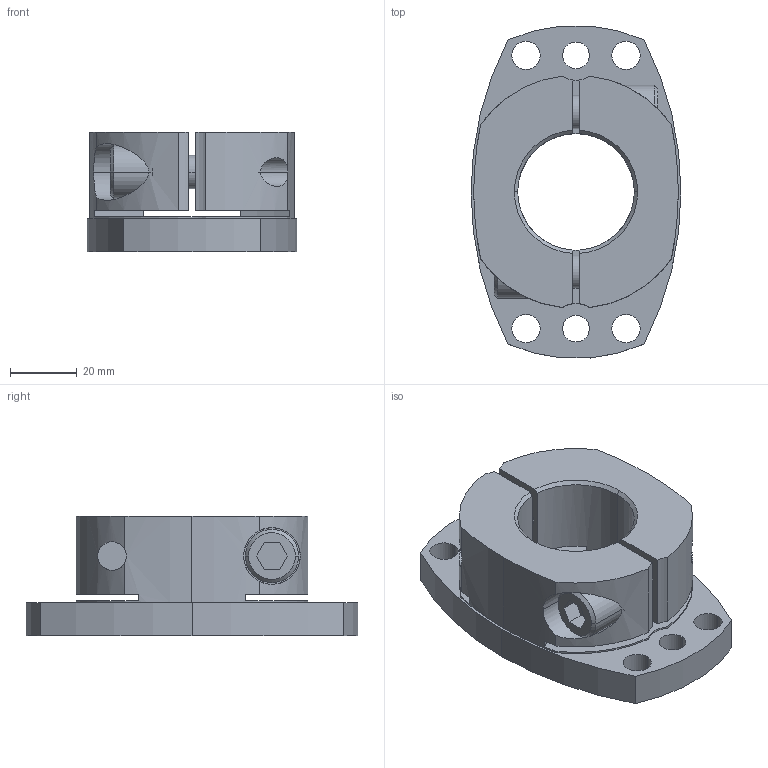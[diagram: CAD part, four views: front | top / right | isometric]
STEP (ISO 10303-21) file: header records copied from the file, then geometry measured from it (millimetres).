
FILE_DESCRIPTION((''),'2;1');
FILE_NAME('SHDB-100B-35.stp','2026-01-28T08:41:35',(''),(''),'AutoCAD STEP 2000i','AutoCAD 2000i',', , ');
FILE_SCHEMA(('CONFIG_CONTROL_DESIGN'));
Length unit declared in the file: millimetre
Products named in the file (2): SHDB-100B-28; 忣兜1
Assembly tree (1 placements, depth 2):
  SHDB-100B-28
    忣兜1
Bounding box: 63 x 99.64 x 36 mm (x, y, z)
Volume: 101644.1 mm3; surface area: 29212 mm2
Topology: 1 solids, 1 shells, 102 faces, 280 edges, 184 vertices
Faces by surface type: cylinder 58, plane 34, cone 10
Entity records: 3683 total; most frequent: CARTESIAN_POINT 856, DIRECTION 602, ORIENTED_EDGE 560, EDGE_CURVE 280, AXIS2_PLACEMENT_3D 238, VERTEX_POINT 184, CIRCLE 134, VECTOR 126
